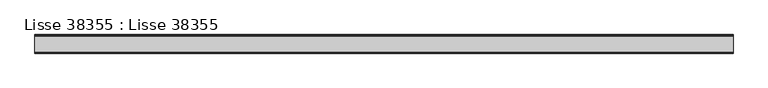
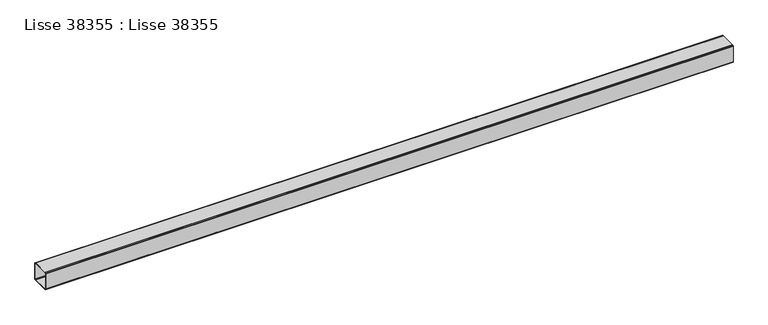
"""IFC4 building model written with IfcOpenShell, lengths in millimetres: beam geometry, Lisse 38355 : Lisse 38355."""

from ifc_helpers import new_model, si_unit, frame, origin, place, context, project, spatial, polyline, outline, extrude, source, transform, mapped, element, save


def lisse_38355_lisse_38355_100b9a3c(model_context):
    return source(origin(), model_context, "Body", "SweptSolid", [
        extrude(outline(polyline([(-19681.0, 8319.6114952), (-19678.8038476, 8317.4153428), (-19678.0, 8314.4153428), (-19678.0, 8226.4153428), (-19678.8038476, 8223.4153428), (-19681.0, 8221.2191903), (-19684.0, 8220.4153428), (-19772.0, 8220.4153428), (-19775.0, 8221.2191903), (-19777.1961524, 8223.4153428), (-19778.0, 8226.4153428), (-19778.0, 8314.4153428), (-19777.1961524, 8317.4153428), (-19775.0, 8319.6114952), (-19772.0, 8320.4153428), (-19684.0, 8320.4153428), (-19681.0, 8319.6114952)]), holes=[polyline([(-19773.4641016, 8226.4153428), (-19772.0, 8224.9512411), (-19770.0, 8224.4153428), (-19686.0, 8224.4153428), (-19684.0, 8224.9512411), (-19682.5358984, 8226.4153428), (-19682.0, 8228.4153428), (-19682.0, 8312.4153428), (-19682.5358984, 8314.4153428), (-19684.0, 8315.8794444), (-19686.0, 8316.4153428), (-19770.0, 8316.4153428), (-19772.0, 8315.8794444), (-19773.4641016, 8314.4153428), (-19774.0, 8312.4153428), (-19774.0, 8228.4153428), (-19773.4641016, 8226.4153428)])]), frame((3787.4999999, 0.0, 0.0), z_axis=(1.0, 0.0, 0.0), x_axis=(0.0, 1.0, 0.0)), (0.0, 0.0, 1.0), 3742.5),
    ])


if __name__ == "__main__":
    model = new_model("IFC4")
    model_context = context("Model", 3, world=origin())
    ifc_project = project(units=[si_unit("LENGTHUNIT", "METRE", prefix="MILLI")], contexts=[model_context])
    site = spatial("IfcSite", under=ifc_project)
    building = spatial("IfcBuilding", under=site)
    placement = place(None, origin())
    lisse_38355_lisse_38355_shape = lisse_38355_lisse_38355_100b9a3c(model_context)
    element("IfcBeam", 1, ObjectType="Lisse 38355 : Lisse 38355", at=placement, inside=building, context=model_context, shape_type="MappedRepresentation", body=[
        mapped(lisse_38355_lisse_38355_shape, transform((0.0, 0.0, 0.0), x_axis=(1.0, 0.0, 0.0), y_axis=(0.0, 1.0, 0.0), z_axis=(0.0, 0.0, 1.0))),
    ])
    save(model, "model.ifc")
